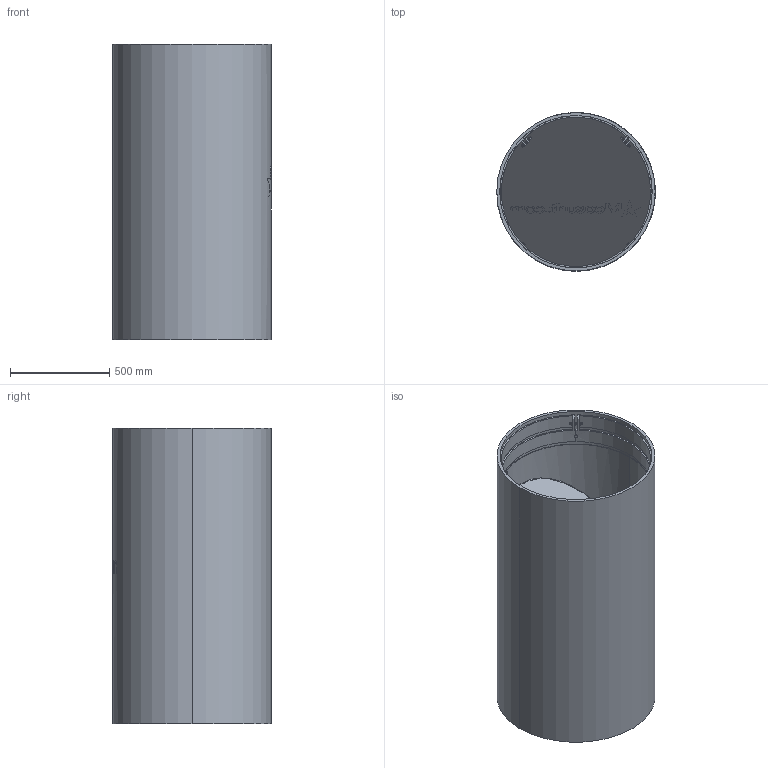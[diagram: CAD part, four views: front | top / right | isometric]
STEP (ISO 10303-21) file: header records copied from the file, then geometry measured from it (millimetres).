
FILE_DESCRIPTION (( 'STEP AP214' ), '1' );
FILE_NAME ('CF-IL-G5-PRO-S0800-NN-316-IDP.STEP', '2023-02-13T16:35:31', ( '' ), ( '' ), 'SwSTEP 2.0', 'SolidWorks 2022', '' );
FILE_SCHEMA (( 'AUTOMOTIVE_DESIGN' ));
Length unit declared in the file: millimetre
Products named in the file (3): Clamp 800_800; CF-IL-G5-PRO-S0800-NN-316-IDP_CM-0100-B; CF-IL-G5-PRO-S0800-NN-316-IDP
Assembly tree (3 placements, depth 2):
  CF-IL-G5-PRO-S0800-NN-316-IDP
    CF-IL-G5-PRO-S0800-NN-316-IDP_CM-0100-B
    Clamp 800_800  x2
Bounding box: 800.5 x 800.5 x 1490 mm (x, y, z)
Volume: 68369898.9 mm3; surface area: 9479217.2 mm2
Topology: 11 solids, 11 shells, 2025 faces, 5597 edges, 3631 vertices
Faces by surface type: plane 826, bspline 672, cone 270, cylinder 257
Entity records: 77368 total; most frequent: CARTESIAN_POINT 22924, ORIENTED_EDGE 9862, DIRECTION 5090, EDGE_CURVE 4931, VERTEX_POINT 3250, LINE 2290, VECTOR 2290, B_SPLINE_CURVE_WITH_KNOTS 2280
